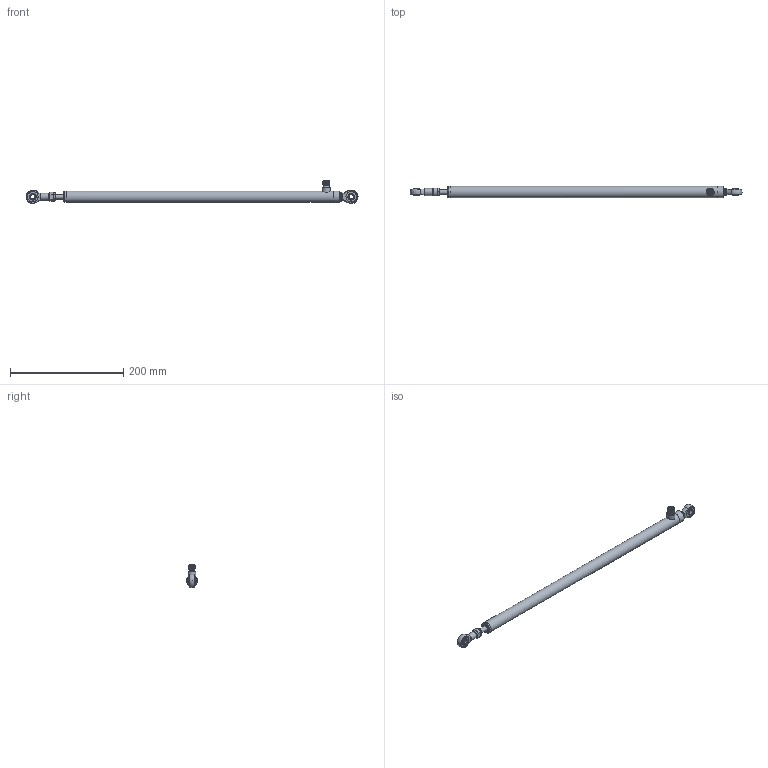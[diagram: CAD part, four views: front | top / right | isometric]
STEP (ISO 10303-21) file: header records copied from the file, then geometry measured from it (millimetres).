
FILE_DESCRIPTION( ( 'STEP AP214' ), '1' );
FILE_NAME( 'N:/Engineering/CAD_Solid/LVDT/SL/Kunden-3D-Modell/SL200-G-SR.stp', '2011-12-12T15:04:27', ( ' ' ), ( ' ' ), 'XStep 1.0', ' ', ' ' );
FILE_SCHEMA( ( 'CONFIG_CONTROL_DESIGN) ( )' ) );
Length unit declared in the file: metre
Products named in the file (9): 1; 2; 3; 4; 5; 6; 7; 8; 9
Bounding box: 586 x 20 x 40.99 mm (x, y, z)
Volume: 1908.6 mm3; surface area: 40553.4 mm2
Topology: 2 solids, 85 shells, 97 faces, 413 edges, 374 vertices
Faces by surface type: plane 42, cone 25, cylinder 23, bspline 4, sphere 2, torus 1
Full cylindrical faces by diameter (mm): 2 x4, 8 x3, 10.5 x1, 12.5 x1, 14 x1, 20 x3
Entity records: 9406 total; most frequent: CARTESIAN_POINT 5655, DIRECTION 607, ORIENTED_EDGE 359, EDGE_CURVE 347, VERTEX_POINT 347, AXIS2_PLACEMENT_3D 261, CIRCLE 157, EDGE_LOOP 155
